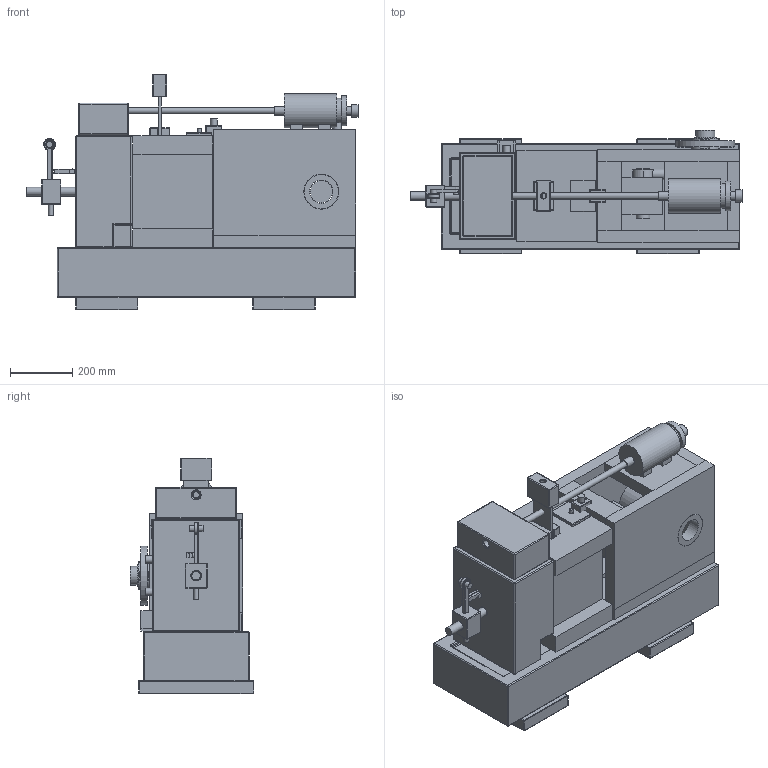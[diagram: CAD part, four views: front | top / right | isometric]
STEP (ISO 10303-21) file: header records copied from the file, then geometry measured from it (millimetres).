
FILE_DESCRIPTION(('Open CASCADE Model'),'2;1');
FILE_NAME('Open CASCADE Shape Model','2026-11-04T17:38:37',('Author'),( 'Open CASCADE'),'Open CASCADE STEP processor 7.9','Open CASCADE 7.9' ,'Unknown');
FILE_SCHEMA(('AUTOMOTIVE_DESIGN { 1 0 10303 214 1 1 1 1 }'));
Length unit declared in the file: millimetre
Products named in the file (68): AETHER_CAD_ASSEMBLY; p000_base_bed; p001_base_foot_left; p002_base_foot_right; p003_headstock_block; p004_headstock_top_cap; p005_cylinder_block; p006_crank_housing; p007_crank_housing_side_cover; p008_crank_housing_access_panel; p009_cylinder_liner; p010_work_chamber_sleeve; p011_piston; p012_piston_face_plate; p013_piston_seal_ring; p014_piston_rod; p015_crosshead_block; p016_crosshead_pin; p017_crosshead_pin_bush; p018_connecting_rod; p019_connecting_rod_big_end; p020_big_end_bearing_shell; p021_crankshaft; p022_crankshaft_end_nut; p023_main_bearing_left; p024_main_bearing_right; p025_main_bearing_cap; p026_crank_gear_flywheel; p027_crosshead_guide_top; p028_crosshead_guide_bottom; p029_drive_motor_casing; p030_drive_motor_end_cap; p031_drive_motor_shaft_nut; p032_drive_motor_shaft; p033_top_tie_rod; p034_top_tie_rod_nut_left; p035_top_tie_rod_nut_right; p036_cutting_blade; p037_blade_holder; p038_blade_guide_plate_left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
Assembly tree (67 placements, depth 2):
  AETHER_CAD_ASSEMBLY
    p000_base_bed
    p001_base_foot_left
    p002_base_foot_right
    p003_headstock_block
    p004_headstock_top_cap
    p005_cylinder_block
    p006_crank_housing
    p007_crank_housing_side_cover
    p008_crank_housing_access_panel
    p009_cylinder_liner
    p010_work_chamber_sleeve
    p011_piston
    p012_piston_face_plate
    p013_piston_seal_ring
    p014_piston_rod
    p015_crosshead_block
    p016_crosshead_pin
    p017_crosshead_pin_bush
    p018_connecting_rod
    p019_connecting_rod_big_end
    p020_big_end_bearing_shell
    p021_crankshaft
    p022_crankshaft_end_nut
    p023_main_bearing_left
    p024_main_bearing_right
    p025_main_bearing_cap
    p026_crank_gear_flywheel
    p027_crosshead_guide_top
    p028_crosshead_guide_bottom
    p029_drive_motor_casing
    p030_drive_motor_end_cap
    p031_drive_motor_shaft_nut
    p032_drive_motor_shaft
    p033_top_tie_rod
    p034_top_tie_rod_nut_left
    p035_top_tie_rod_nut_right
    p036_cutting_blade
    p037_blade_holder
    p038_blade_guide_plate_left
    p039_blade_guide_plate_right
    p040_die_block
    p041_pressure_disc
    p042_ejector_rod
    p043_ejector_spring
    p044_spring_collar_left
    p045_spring_collar_right
    p046_feed_rod
    p047_feed_rod_clamp_block
    p048_feed_clamp_bolt
    p049_feed_lever
    p050_feed_lever_pivot_pin
    p051_feed_link
    p052_feed_link_horizontal
    p053_link_pivot_lower
    p054_lubricator_block
    p055_lubricator_cap_screw
    p056_lubricator_drip_valve
    p057_lubricator_drop_pin
    p058_discharge_chute
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Bounding box: 1068 x 397 x 758 mm (x, y, z)
Volume: 122617769.7 mm3; surface area: 5732095.7 mm2
Topology: 67 solids, 67 shells, 891 faces, 1915 edges, 998 vertices
Faces by surface type: plane 350, cylinder 327, sphere 138, torus 46, cone 18, bspline 12
Full cylindrical faces by diameter (mm): 8 x1, 10 x2, 12 x6, 16 x6, 18 x1, 20 x6, 22 x4, 24 x4, 26 x2, 28 x3, 30 x5, 34 x1, 36 x5, 38 x2, 40 x1, 44 x2, 46 x1, 48 x2, 56 x2, 60 x1, 72 x1, 74 x6, 80 x1, 90 x3, 94 x1, 96 x2, 100 x1, 110 x3, 112 x1, 136 x1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
Entity records: 52080 total; most frequent: CARTESIAN_POINT 13946, DIRECTION 7044, ORIENTED_EDGE 3538, PCURVE 3538, DEFINITIONAL_REPRESENTATION 3538, LINE 3280, VECTOR 3280, EDGE_CURVE 1769
